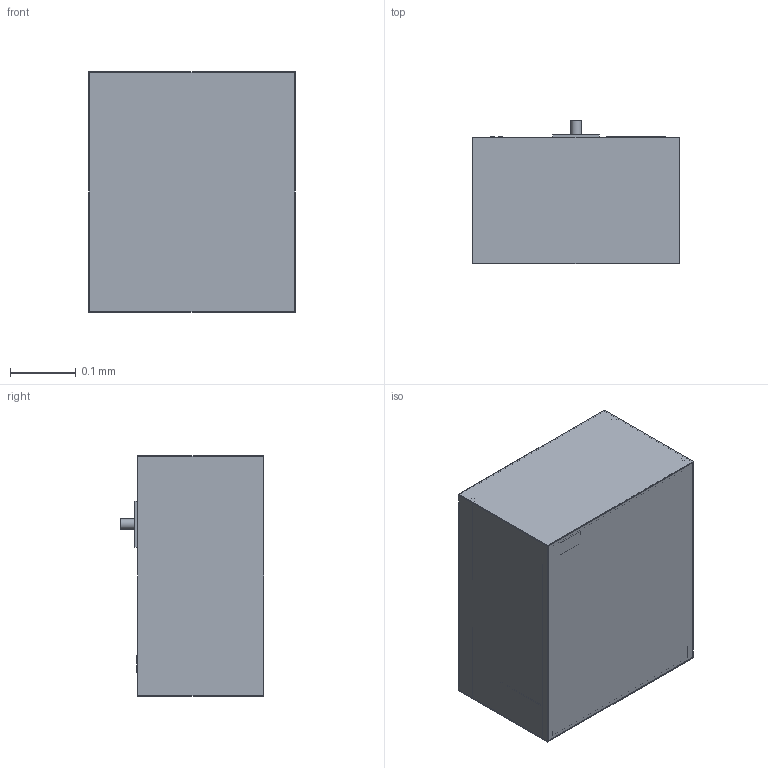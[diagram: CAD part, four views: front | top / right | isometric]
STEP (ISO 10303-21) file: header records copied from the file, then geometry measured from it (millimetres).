
FILE_DESCRIPTION(('Open CASCADE Model'),'2;1');
FILE_NAME('Open CASCADE Shape Model','2026-10-04T10:37:43',('Author'),( 'Open CASCADE'),'Open CASCADE STEP processor 7.9','Open CASCADE 7.9' ,'Unknown');
FILE_SCHEMA(('AUTOMOTIVE_DESIGN { 1 0 10303 214 1 1 1 1 }'));
Length unit declared in the file: millimetre
Products named in the file (120): MOD-c-elegans-muscle; fluid__bacterial_food_169_mL; fluid__bacterial_food_port; fluid__FUdR_169_mL; fluid__FUdR_port; fluid__paraformaldehyde_fixative_169_mL; fluid__paraformaldehyde_fixative_port; fluid__RNA_preservation_solution_169_mL; fluid__RNA_preservation_solution_port; fluid__waste_bag_empty_at_launch_169_mL_capacity_under_the_reagent_
bags; fluid__waste_bag_port; electronics__controller_enclosure_boards_data_storage; electronics__connector_1; electronics__connector_2; imaging__microscope_base_optics_filter_cubes_camera; imaging__objective; imaging__stage_post_1; imaging__stage_post_2; imaging__stage_post_3; imaging__stage_post_4; imaging__XY_stage_frame_travel_96_5_x_57_9_mm_every_well_over_the_
objective; imaging__stage_carriage; imaging__X_stepper; imaging__Y_stepper; imaging__illumination_column; imaging__illumination_arm; imaging__arm_to_head; imaging__LED_head_transmitted_light; sample__cassette_24_wells_SBS_footprint_19_3_mm_pitch; sample__culture_in_the_wells; sample__cassette_lid_sealed_and_gas_permeable; sample__cassette_fluid_port_1; sample__cassette_fluid_port_2; sensor__TLD_and_temperature_probe_holder; sensor__passive_TLD_holder; pump__fluid_manifold; pump__micro_pump_1; pump__micro_pump_2; pump__valve_1; pump__valve_2 ...
Assembly tree (119 placements, depth 2):
  MOD-c-elegans-muscle
    fluid__bacterial_food_169_mL
    fluid__bacterial_food_port
    fluid__FUdR_169_mL
    fluid__FUdR_port
    fluid__paraformaldehyde_fixative_169_mL
    fluid__paraformaldehyde_fixative_port
    fluid__RNA_preservation_solution_169_mL
    fluid__RNA_preservation_solution_port
    fluid__waste_bag_empty_at_launch_169_mL_capacity_under_the_reagent_
bags
    fluid__waste_bag_port
    electronics__controller_enclosure_boards_data_storage
    electronics__connector_1
    electronics__connector_2
    imaging__microscope_base_optics_filter_cubes_camera
    imaging__objective
    imaging__stage_post_1
    imaging__stage_post_2
    imaging__stage_post_3
    imaging__stage_post_4
    imaging__XY_stage_frame_travel_96_5_x_57_9_mm_every_well_over_the_
objective
    imaging__stage_carriage
    imaging__X_stepper
    imaging__Y_stepper
    imaging__illumination_column
    imaging__illumination_arm
    imaging__arm_to_head
    imaging__LED_head_transmitted_light
    sample__cassette_24_wells_SBS_footprint_19_3_mm_pitch
    sample__culture_in_the_wells
    sample__cassette_lid_sealed_and_gas_permeable
    sample__cassette_fluid_port_1
    sample__cassette_fluid_port_2
    sensor__TLD_and_temperature_probe_holder
    sensor__passive_TLD_holder
    pump__fluid_manifold
    pump__micro_pump_1
    pump__micro_pump_2
    pump__valve_1
    pump__valve_2
    pump__valve_3
    pump__valve_4
    pump__manifold_inlet
    pump__manifold_outlet
    housing__bottom_panel
    housing__top_panel
    housing__side_panel_L
    housing__side_panel_R
    housing__back_panel_bay_interface
    housing__front_panel
    housing__corner_post_1
    housing__corner_post_2
    housing__corner_post_3
    housing__corner_post_4
    housing__shelf_1
    thermal__cold_wall_to_the_bay_s_thermoelectric_block
    interface__blind_mate_connector_power_data_video
    interface__grapple_fixture_base_Dexter_L
    interface__grapple_fixture_pin
    interface__status_LEDs
Bounding box: 0.31 x 0.22 x 0.37 mm (x, y, z)
Volume: 0 mm3; surface area: 1.9 mm2
Topology: 143 solids, 143 shells, 604 faces, 882 edges, 588 vertices
Faces by surface type: plane 450, cylinder 154
Full cylindrical faces by diameter (mm): 0.003 x41, 0.005 x25, 0.006 x4, 0.009 x4, 0.01 x4, 0.012 x3, 0.015 x24, 0.016 x25, 0.02 x2, 0.022 x1, 0.028 x1
Entity records: 27654 total; most frequent: DIRECTION 4382, CARTESIAN_POINT 4078, LINE 2030, VECTOR 2030, ORIENTED_EDGE 1764, PCURVE 1764, DEFINITIONAL_REPRESENTATION 1764, AXIS2_PLACEMENT_3D 1032
